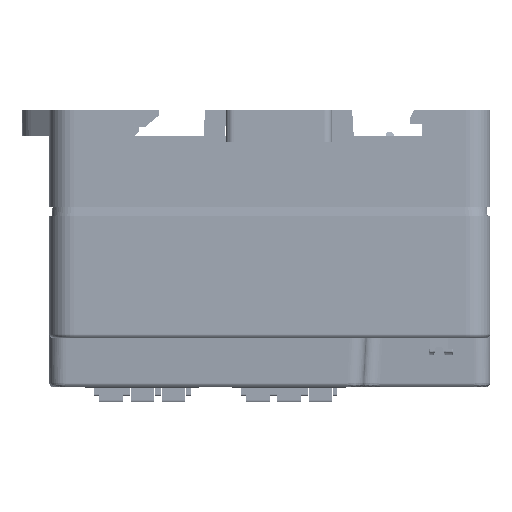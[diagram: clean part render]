
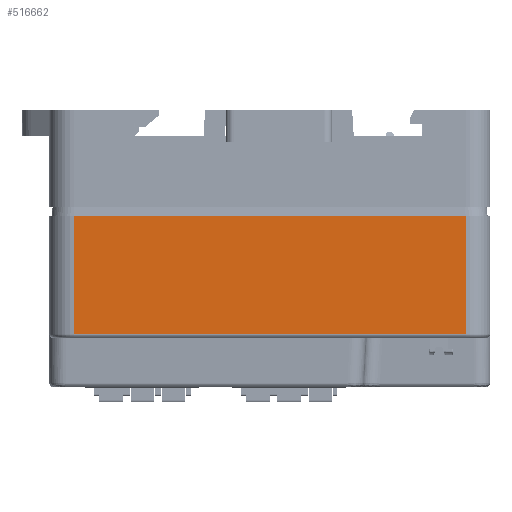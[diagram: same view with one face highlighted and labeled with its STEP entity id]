
A CAD part, left-side view. The second image highlights one B-rep face of the part: STEP entity #516662.
In plain terms, the highlighted planar face has unit normal (-1, 0, 0).
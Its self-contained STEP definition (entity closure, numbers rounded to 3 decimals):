
#498608=DIRECTION('',(0.,1.,0.));
#498609=VECTOR('',#498608,48.);
#498610=CARTESIAN_POINT('',(-80.,-24.,-6.));
#498611=LINE('',#498610,#498609);
#498612=DIRECTION('',(0.,0.,-1.));
#498613=VECTOR('',#498612,14.5);
#498614=CARTESIAN_POINT('',(-80.,24.,8.5));
#498615=LINE('',#498614,#498613);
#498616=DIRECTION('',(0.,-1.,0.));
#498617=VECTOR('',#498616,48.);
#498618=CARTESIAN_POINT('',(-80.,24.,8.5));
#498619=LINE('',#498618,#498617);
#498620=DIRECTION('',(0.,0.,-1.));
#498621=VECTOR('',#498620,14.5);
#498622=CARTESIAN_POINT('',(-80.,-24.,8.5));
#498623=LINE('',#498622,#498621);
#504001=CARTESIAN_POINT('',(-80.,24.,8.5));
#504002=CARTESIAN_POINT('',(-80.,-24.,8.5));
#504003=VERTEX_POINT('',#504001);
#504004=VERTEX_POINT('',#504002);
#504673=CARTESIAN_POINT('',(-80.,24.,-6.));
#504674=VERTEX_POINT('',#504673);
#504677=CARTESIAN_POINT('',(-80.,-24.,-6.));
#504678=VERTEX_POINT('',#504677);
#516650=CARTESIAN_POINT('',(-80.,27.,-12.5));
#516651=DIRECTION('',(-1.,0.,0.));
#516652=DIRECTION('',(0.,-1.,0.));
#516653=AXIS2_PLACEMENT_3D('',#516650,#516651,#516652);
#516654=PLANE('',#516653);
#516655=ORIENTED_EDGE('',*,*,#515565,.T.);
#516657=ORIENTED_EDGE('',*,*,#516656,.F.);
#516658=ORIENTED_EDGE('',*,*,#516605,.T.);
#516659=ORIENTED_EDGE('',*,*,#516643,.T.);
#516660=EDGE_LOOP('',(#516655,#516657,#516658,#516659));
#516661=FACE_OUTER_BOUND('',#516660,.F.);
#515565=EDGE_CURVE('',#504678,#504674,#498611,.T.);
#516605=EDGE_CURVE('',#504003,#504004,#498619,.T.);
#516643=EDGE_CURVE('',#504004,#504678,#498623,.T.);
#516656=EDGE_CURVE('',#504003,#504674,#498615,.T.);
#516662=ADVANCED_FACE('',(#516661),#516654,.T.);
